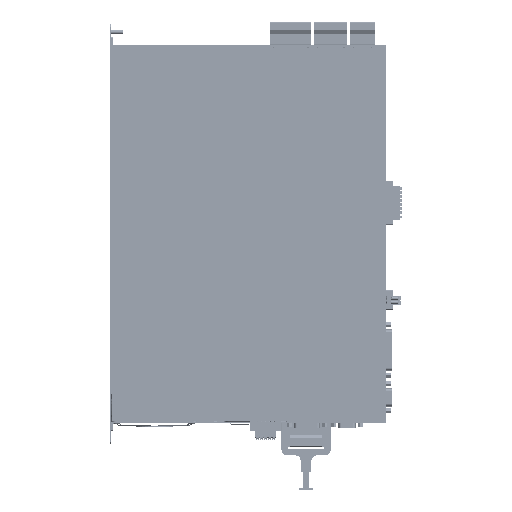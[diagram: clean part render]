
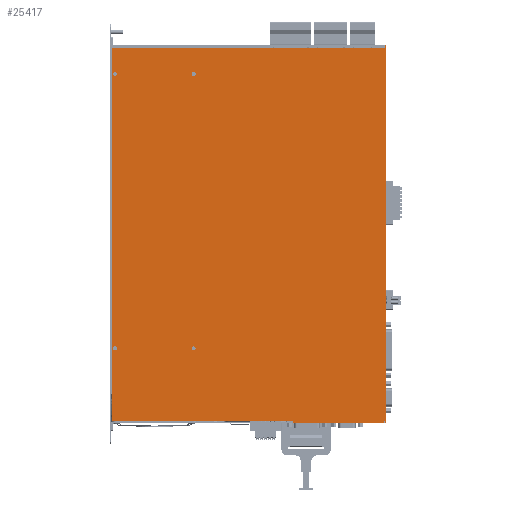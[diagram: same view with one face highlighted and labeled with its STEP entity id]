
A CAD part, left-side view. The second image highlights one B-rep face of the part: STEP entity #25417.
In plain terms, the highlighted planar face has unit normal (-1, 0, 0).
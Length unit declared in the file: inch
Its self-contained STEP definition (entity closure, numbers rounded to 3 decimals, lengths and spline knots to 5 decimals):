
#25417=ADVANCED_FACE('',(#60818,#60819,#60820,#60821,#60822),#60823,.F.);
#60818=FACE_BOUND('',#116553,.T.);
#60819=FACE_BOUND('',#116554,.T.);
#60820=FACE_BOUND('',#116555,.T.);
#60821=FACE_BOUND('',#116556,.T.);
#60822=FACE_OUTER_BOUND('',#116557,.T.);
#60823=PLANE('',#116558);
#116553=EDGE_LOOP('',(#209188,#209189));
#116554=EDGE_LOOP('',(#209190,#209191));
#116555=EDGE_LOOP('',(#209192,#209193));
#116556=EDGE_LOOP('',(#209194,#209195));
#116557=EDGE_LOOP('',(#209196,#209197,#209198,#209199,#209200,#209201,#209202,#209203,#209204,#209205,#209206,#209207,#209208,#209209));
#116558=AXIS2_PLACEMENT_3D('',#209210,#209211,#209212);
#209188=ORIENTED_EDGE('',*,*,#323305,.T.);
#209189=ORIENTED_EDGE('',*,*,#313909,.T.);
#209190=ORIENTED_EDGE('',*,*,#328282,.T.);
#209191=ORIENTED_EDGE('',*,*,#328283,.T.);
#209192=ORIENTED_EDGE('',*,*,#328284,.T.);
#209193=ORIENTED_EDGE('',*,*,#307365,.T.);
#209194=ORIENTED_EDGE('',*,*,#328285,.T.);
#209195=ORIENTED_EDGE('',*,*,#328286,.T.);
#209196=ORIENTED_EDGE('',*,*,#328287,.T.);
#209197=ORIENTED_EDGE('',*,*,#307223,.F.);
#209198=ORIENTED_EDGE('',*,*,#328288,.T.);
#209199=ORIENTED_EDGE('',*,*,#328289,.F.);
#209200=ORIENTED_EDGE('',*,*,#328290,.T.);
#209201=ORIENTED_EDGE('',*,*,#328291,.T.);
#209202=ORIENTED_EDGE('',*,*,#328292,.F.);
#209203=ORIENTED_EDGE('',*,*,#327962,.F.);
#209204=ORIENTED_EDGE('',*,*,#328293,.F.);
#209205=ORIENTED_EDGE('',*,*,#328294,.T.);
#209206=ORIENTED_EDGE('',*,*,#306221,.T.);
#209207=ORIENTED_EDGE('',*,*,#328295,.T.);
#209208=ORIENTED_EDGE('',*,*,#328296,.T.);
#209209=ORIENTED_EDGE('',*,*,#328297,.T.);
#209210=CARTESIAN_POINT('',(0.41339,-6.36811,8.22835));
#209211=DIRECTION('',(1.0,0.,0.));
#209212=DIRECTION('',(0.,-1.0,0.));
#306221=EDGE_CURVE('',#360347,#360345,#360348,.F.);
#307223=EDGE_CURVE('',#362193,#362195,#362196,.F.);
#307365=EDGE_CURVE('',#362454,#362458,#362460,.T.);
#313909=EDGE_CURVE('',#374193,#374197,#374199,.T.);
#323305=EDGE_CURVE('',#374197,#374193,#390010,.T.);
#327962=EDGE_CURVE('',#397378,#397376,#397380,.T.);
#328282=EDGE_CURVE('',#397870,#397871,#397872,.T.);
#328283=EDGE_CURVE('',#397871,#397870,#397873,.T.);
#328284=EDGE_CURVE('',#362458,#362454,#397874,.T.);
#328285=EDGE_CURVE('',#397875,#397876,#397877,.T.);
#328286=EDGE_CURVE('',#397876,#397875,#397878,.T.);
#328287=EDGE_CURVE('',#397879,#362195,#397880,.T.);
#328288=EDGE_CURVE('',#362193,#397881,#397882,.T.);
#328289=EDGE_CURVE('',#397883,#397881,#397884,.F.);
#328290=EDGE_CURVE('',#397883,#397885,#397886,.T.);
#328291=EDGE_CURVE('',#397885,#397887,#397888,.T.);
#328292=EDGE_CURVE('',#397376,#397887,#397889,.T.);
#328293=EDGE_CURVE('',#397890,#397378,#397891,.T.);
#328294=EDGE_CURVE('',#397890,#360347,#397892,.F.);
#328295=EDGE_CURVE('',#360345,#397893,#397894,.T.);
#328296=EDGE_CURVE('',#397893,#397895,#397896,.F.);
#328297=EDGE_CURVE('',#397895,#397879,#397897,.F.);
#360345=VERTEX_POINT('',#440093);
#360347=VERTEX_POINT('',#440096);
#360348=LINE('',#440097,#440098);
#362193=VERTEX_POINT('',#443139);
#362195=VERTEX_POINT('',#443142);
#362196=LINE('',#443143,#443144);
#362454=VERTEX_POINT('',#443494);
#362458=VERTEX_POINT('',#443499);
#362460=CIRCLE('',#443502,0.0748);
#374193=VERTEX_POINT('',#463385);
#374197=VERTEX_POINT('',#463390);
#374199=CIRCLE('',#463393,0.0748);
#390010=CIRCLE('',#490195,0.0748);
#397376=VERTEX_POINT('',#502307);
#397378=VERTEX_POINT('',#502310);
#397380=LINE('',#502313,#502314);
#397870=VERTEX_POINT('',#503029);
#397871=VERTEX_POINT('',#503030);
#397872=CIRCLE('',#503031,0.0748);
#397873=CIRCLE('',#503032,0.0748);
#397874=CIRCLE('',#503033,0.0748);
#397875=VERTEX_POINT('',#503034);
#397876=VERTEX_POINT('',#503035);
#397877=CIRCLE('',#503036,0.0748);
#397878=CIRCLE('',#503037,0.0748);
#397879=VERTEX_POINT('',#503038);
#397880=LINE('',#503039,#503040);
#397881=VERTEX_POINT('',#503041);
#397882=LINE('',#503042,#503043);
#397883=VERTEX_POINT('',#503044);
#397884=LINE('',#503045,#503046);
#397885=VERTEX_POINT('',#503047);
#397886=LINE('',#503048,#503049);
#397887=VERTEX_POINT('',#503050);
#397888=LINE('',#503051,#503052);
#397889=LINE('',#503053,#503054);
#397890=VERTEX_POINT('',#503055);
#397891=LINE('',#503056,#503057);
#397892=LINE('',#503058,#503059);
#397893=VERTEX_POINT('',#503060);
#397894=LINE('',#503061,#503062);
#397895=VERTEX_POINT('',#503063);
#397896=LINE('',#503064,#503065);
#397897=LINE('',#503066,#503067);
#440093=CARTESIAN_POINT('',(0.41339,-5.64961,-0.80709));
#440096=CARTESIAN_POINT('',(0.41339,-5.64961,-0.72835));
#440097=CARTESIAN_POINT('',(0.41339,-5.64961,3.72539));
#440098=VECTOR('',#570400,0.03937);
#443139=CARTESIAN_POINT('',(0.41339,-9.05512,-0.80709));
#443142=CARTESIAN_POINT('',(0.41339,-9.01575,-0.80709));
#443143=CARTESIAN_POINT('',(0.41339,-5.18209,-0.80709));
#443144=VECTOR('',#571650,0.03937);
#443494=CARTESIAN_POINT('',(0.41339,-2.10236,11.9685));
#443499=CARTESIAN_POINT('',(0.41339,-1.95276,11.9685));
#443502=AXIS2_PLACEMENT_3D('',#571869,#571870,#571871);
#463385=CARTESIAN_POINT('',(0.41339,0.77165,11.9685));
#463390=CARTESIAN_POINT('',(0.41339,0.92126,11.9685));
#463393=AXIS2_PLACEMENT_3D('',#578996,#578997,#578998);
#490195=AXIS2_PLACEMENT_3D('',#589226,#589227,#589228);
#502307=CARTESIAN_POINT('',(0.41339,0.96457,12.8937));
#502310=CARTESIAN_POINT('',(0.41339,0.96457,-0.68898));
#502313=CARTESIAN_POINT('',(0.41339,0.96457,8.22835));
#502314=VECTOR('',#594484,0.03937);
#503029=CARTESIAN_POINT('',(0.41339,0.92126,1.92913));
#503030=CARTESIAN_POINT('',(0.41339,0.77165,1.92913));
#503031=AXIS2_PLACEMENT_3D('',#594841,#594842,#594843);
#503032=AXIS2_PLACEMENT_3D('',#594844,#594845,#594846);
#503033=AXIS2_PLACEMENT_3D('',#594847,#594848,#594849);
#503034=CARTESIAN_POINT('',(0.41339,-1.95276,1.92913));
#503035=CARTESIAN_POINT('',(0.41339,-2.10236,1.92913));
#503036=AXIS2_PLACEMENT_3D('',#594850,#594851,#594852);
#503037=AXIS2_PLACEMENT_3D('',#594853,#594854,#594855);
#503038=CARTESIAN_POINT('',(0.41339,-9.01575,-0.72835));
#503039=CARTESIAN_POINT('',(0.41339,-9.01575,3.8189));
#503040=VECTOR('',#594856,0.03937);
#503041=CARTESIAN_POINT('',(0.41339,-9.05512,13.01181));
#503042=CARTESIAN_POINT('',(0.41339,-9.05512,2.11811));
#503043=VECTOR('',#594857,0.03937);
#503044=CARTESIAN_POINT('',(0.41339,-9.01575,13.01181));
#503045=CARTESIAN_POINT('',(0.41339,-5.54626,13.01181));
#503046=VECTOR('',#594858,0.03937);
#503047=CARTESIAN_POINT('',(0.41339,-9.01575,12.93307));
#503048=CARTESIAN_POINT('',(0.41339,-9.01575,3.8189));
#503049=VECTOR('',#594859,0.03937);
#503050=CARTESIAN_POINT('',(0.41339,0.9252,12.93307));
#503051=CARTESIAN_POINT('',(0.41339,-4.45866,12.93307));
#503052=VECTOR('',#594860,0.03937);
#503053=CARTESIAN_POINT('',(0.41339,0.28789,13.57037));
#503054=VECTOR('',#594861,0.03937);
#503055=CARTESIAN_POINT('',(0.41339,0.9252,-0.72835));
#503056=CARTESIAN_POINT('',(0.41339,1.35089,-0.30266));
#503057=VECTOR('',#594862,0.03937);
#503058=CARTESIAN_POINT('',(0.41339,-4.45866,-0.72835));
#503059=VECTOR('',#594863,0.03937);
#503060=CARTESIAN_POINT('',(0.41339,-8.99606,-0.80709));
#503061=CARTESIAN_POINT('',(0.41339,-6.66339,-0.80709));
#503062=VECTOR('',#594864,0.03937);
#503063=CARTESIAN_POINT('',(0.41339,-8.99606,-0.72835));
#503064=CARTESIAN_POINT('',(0.41339,-8.99606,3.74508));
#503065=VECTOR('',#594865,0.03937);
#503066=CARTESIAN_POINT('',(0.41339,-4.45866,-0.72835));
#503067=VECTOR('',#594866,0.03937);
#570400=DIRECTION('',(0.,0.,1.0));
#571650=DIRECTION('',(0.,-1.0,0.));
#571869=CARTESIAN_POINT('',(0.41339,-2.02756,11.9685));
#571870=DIRECTION('',(1.0,0.,0.));
#571871=DIRECTION('',(0.,-1.0,0.));
#578996=CARTESIAN_POINT('',(0.41339,0.84646,11.9685));
#578997=DIRECTION('',(1.0,0.,0.));
#578998=DIRECTION('',(0.,-1.0,0.));
#589226=CARTESIAN_POINT('',(0.41339,0.84646,11.9685));
#589227=DIRECTION('',(1.0,0.,0.));
#589228=DIRECTION('',(0.,-1.0,0.));
#594484=DIRECTION('',(0.,0.,1.0));
#594841=CARTESIAN_POINT('',(0.41339,0.84646,1.92913));
#594842=DIRECTION('',(1.0,0.,0.));
#594843=DIRECTION('',(0.,-1.0,0.));
#594844=CARTESIAN_POINT('',(0.41339,0.84646,1.92913));
#594845=DIRECTION('',(1.0,0.,0.));
#594846=DIRECTION('',(0.,-1.0,0.));
#594847=CARTESIAN_POINT('',(0.41339,-2.02756,11.9685));
#594848=DIRECTION('',(1.0,0.,0.));
#594849=DIRECTION('',(0.,-1.0,0.));
#594850=CARTESIAN_POINT('',(0.41339,-2.02756,1.92913));
#594851=DIRECTION('',(1.0,0.,0.));
#594852=DIRECTION('',(0.,-1.0,0.));
#594853=CARTESIAN_POINT('',(0.41339,-2.02756,1.92913));
#594854=DIRECTION('',(1.0,0.,0.));
#594855=DIRECTION('',(0.,-1.0,0.));
#594856=DIRECTION('',(0.,0.,-1.0));
#594857=DIRECTION('',(0.,0.,1.0));
#594858=DIRECTION('',(0.,1.0,0.));
#594859=DIRECTION('',(0.,0.,-1.0));
#594860=DIRECTION('',(0.,1.0,0.));
#594861=DIRECTION('',(0.,-0.707,0.707));
#594862=DIRECTION('',(0.,0.707,0.707));
#594863=DIRECTION('',(0.,1.0,0.));
#594864=DIRECTION('',(0.,-1.0,0.));
#594865=DIRECTION('',(0.,0.,-1.0));
#594866=DIRECTION('',(0.,1.0,0.));
